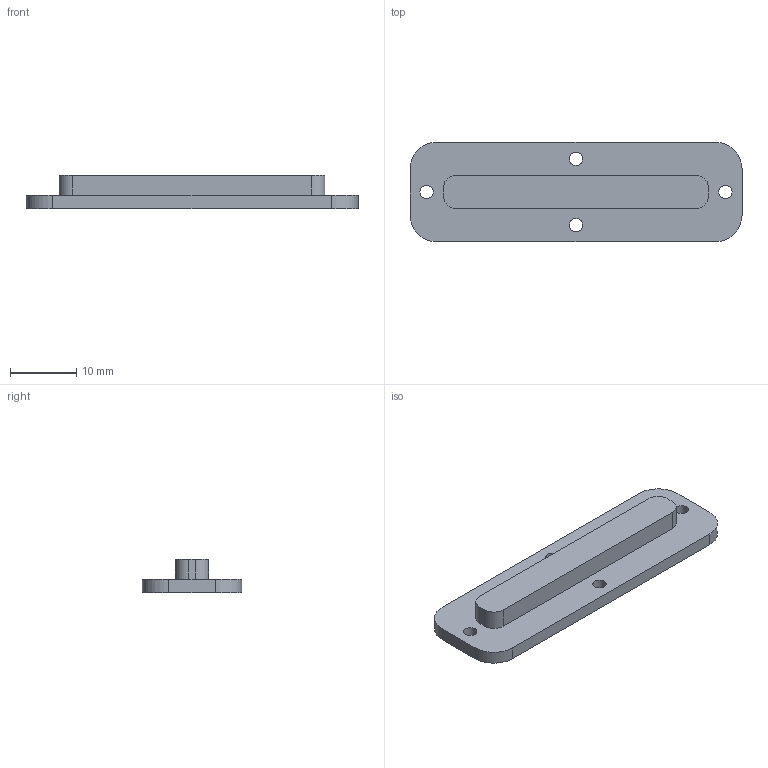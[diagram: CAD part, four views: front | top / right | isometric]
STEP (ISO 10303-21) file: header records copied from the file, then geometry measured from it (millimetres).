
FILE_DESCRIPTION(/* description */ (''),/* implementation_level */ '2;1');
FILE_NAME(/* name */ 'G:\YandexDisk\Работа\Inventor\Универ\ОАП\Лабораторные работы\ЛР6 Создание сборок\Редуктор\stp\Щит.stp',/* time_stamp */ '2023-11-17T06:38:47+03:00',/* author */ ('34740'),/* organization */ (''),/* preprocessor_version */ 'ST-DEVELOPER v18.1',/* originating_system */ 'Autodesk Inventor 2022',/* authorisation */ '');
FILE_SCHEMA (('AUTOMOTIVE_DESIGN { 1 0 10303 214 3 1 1 }'));
Length unit declared in the file: millimetre
Products named in the file (1): Щит
Bounding box: 50 x 15 x 5 mm (x, y, z)
Volume: 2037.1 mm3; surface area: 2003.6 mm2
Topology: 1 solids, 1 shells, 23 faces, 60 edges, 40 vertices
Faces by surface type: cylinder 12, plane 11
Full cylindrical faces by diameter (mm): 2 x4
Entity records: 775 total; most frequent: DIRECTION 132, CARTESIAN_POINT 124, ORIENTED_EDGE 120, EDGE_CURVE 60, AXIS2_PLACEMENT_3D 48, VERTEX_POINT 40, LINE 36, VECTOR 36
